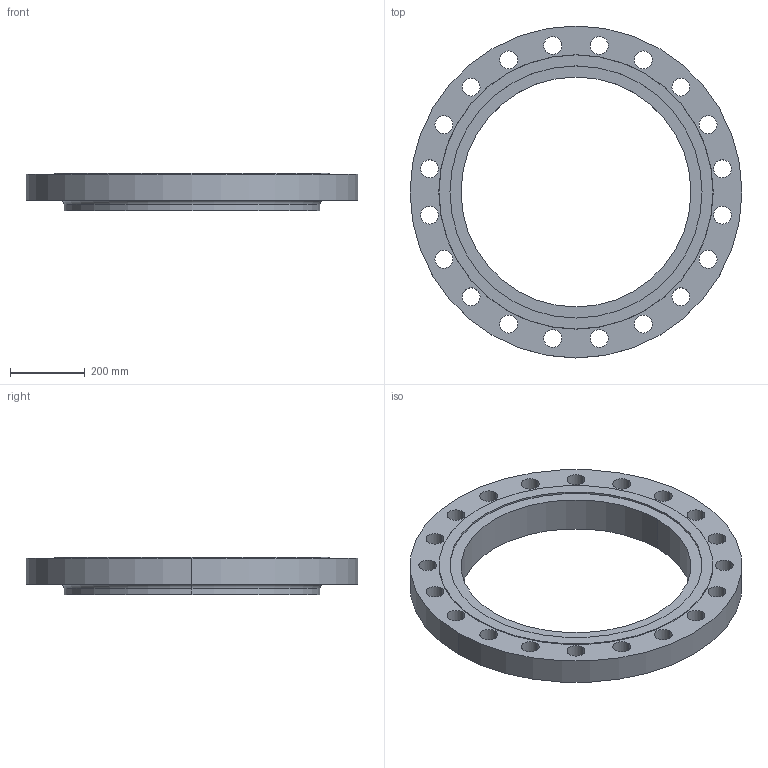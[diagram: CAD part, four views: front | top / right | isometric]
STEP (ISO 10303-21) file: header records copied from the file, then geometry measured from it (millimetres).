
FILE_DESCRIPTION (( 'STEP AP214' ), '1' );
FILE_NAME ('PN40 DN600 Type 12 - Type F Face.STEP', '2018-12-28T23:02:54', ( '' ), ( '' ), 'SwSTEP 2.0', 'SolidWorks 2019', '' );
FILE_SCHEMA (( 'AUTOMOTIVE_DESIGN' ));
Length unit declared in the file: millimetre
Products named in the file (1): PN40 DN600 Type 12 - Type F Face
Bounding box: 890 x 890 x 100 mm (x, y, z)
Volume: 22127251 mm3; surface area: 1229464.3 mm2
Topology: 1 solids, 1 shells, 57 faces, 154 edges, 102 vertices
Faces by surface type: cylinder 48, plane 5, torus 2, cone 2
Entity records: 1974 total; most frequent: DIRECTION 374, CARTESIAN_POINT 314, ORIENTED_EDGE 308, AXIS2_PLACEMENT_3D 162, EDGE_CURVE 154, CIRCLE 104, VERTEX_POINT 102, EDGE_LOOP 102
